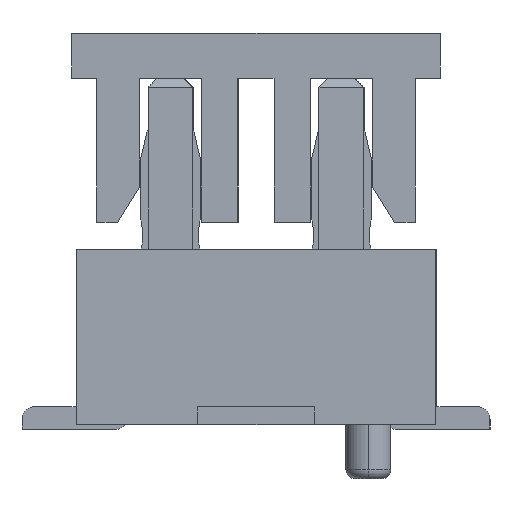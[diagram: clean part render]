
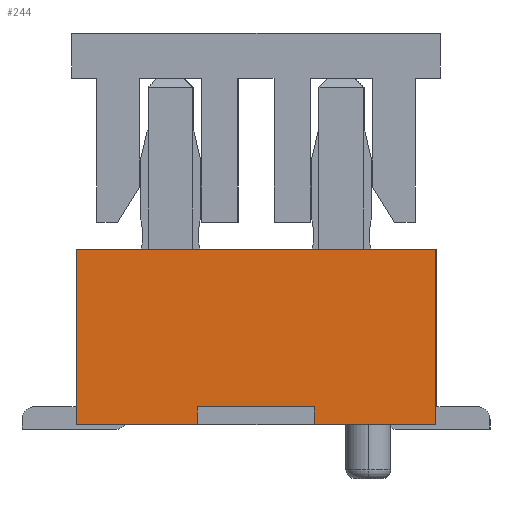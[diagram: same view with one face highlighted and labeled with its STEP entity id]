
A CAD part, left-side view. The second image highlights one B-rep face of the part: STEP entity #244.
In plain terms, the highlighted planar face has unit normal (-1, 0, 0).
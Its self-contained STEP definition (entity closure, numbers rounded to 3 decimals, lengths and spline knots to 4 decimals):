
#173=CARTESIAN_POINT('Axis2P3D Location',(-10.85,0.,0.)) ;
#178=CARTESIAN_POINT('Line Origine',(-10.85,0.65,0.1)) ;
#182=CARTESIAN_POINT('Vertex',(-10.85,0.65,0.)) ;
#184=CARTESIAN_POINT('Vertex',(-10.85,0.65,0.2)) ;
#187=CARTESIAN_POINT('Line Origine',(-10.85,0.,0.2)) ;
#191=CARTESIAN_POINT('Vertex',(-10.85,-0.65,0.2)) ;
#194=CARTESIAN_POINT('Line Origine',(-10.85,-0.65,0.1)) ;
#198=CARTESIAN_POINT('Vertex',(-10.85,-0.65,0.)) ;
#201=CARTESIAN_POINT('Line Origine',(-10.85,-1.325,0.)) ;
#205=CARTESIAN_POINT('Vertex',(-10.85,-2.,0.)) ;
#208=CARTESIAN_POINT('Line Origine',(-10.85,-2.,0.975)) ;
#212=CARTESIAN_POINT('Vertex',(-10.85,-2.,1.95)) ;
#215=CARTESIAN_POINT('Line Origine',(-10.85,0.,1.95)) ;
#219=CARTESIAN_POINT('Vertex',(-10.85,2.,1.95)) ;
#222=CARTESIAN_POINT('Line Origine',(-10.85,2.,0.975)) ;
#226=CARTESIAN_POINT('Vertex',(-10.85,2.,0.)) ;
#229=CARTESIAN_POINT('Line Origine',(-10.85,1.325,0.)) ;
#174=DIRECTION('Axis2P3D Direction',(1.,0.,0.)) ;
#175=DIRECTION('Axis2P3D XDirection',(0.,1.,0.)) ;
#179=DIRECTION('Vector Direction',(0.,0.,1.)) ;
#188=DIRECTION('Vector Direction',(0.,1.,0.)) ;
#195=DIRECTION('Vector Direction',(0.,0.,1.)) ;
#202=DIRECTION('Vector Direction',(0.,1.,0.)) ;
#209=DIRECTION('Vector Direction',(0.,0.,-1.)) ;
#216=DIRECTION('Vector Direction',(0.,1.,0.)) ;
#223=DIRECTION('Vector Direction',(0.,0.,-1.)) ;
#230=DIRECTION('Vector Direction',(0.,1.,0.)) ;
#176=AXIS2_PLACEMENT_3D('Plane Axis2P3D',#173,#174,#175) ;
#235=ORIENTED_EDGE('',*,*,#186,.T.) ;
#236=ORIENTED_EDGE('',*,*,#193,.F.) ;
#237=ORIENTED_EDGE('',*,*,#200,.F.) ;
#238=ORIENTED_EDGE('',*,*,#207,.F.) ;
#239=ORIENTED_EDGE('',*,*,#214,.F.) ;
#240=ORIENTED_EDGE('',*,*,#221,.F.) ;
#241=ORIENTED_EDGE('',*,*,#228,.F.) ;
#242=ORIENTED_EDGE('',*,*,#233,.F.) ;
#180=VECTOR('Line Direction',#179,1.) ;
#189=VECTOR('Line Direction',#188,1.) ;
#196=VECTOR('Line Direction',#195,1.) ;
#203=VECTOR('Line Direction',#202,1.) ;
#210=VECTOR('Line Direction',#209,1.) ;
#217=VECTOR('Line Direction',#216,1.) ;
#224=VECTOR('Line Direction',#223,1.) ;
#231=VECTOR('Line Direction',#230,1.) ;
#244=ADVANCED_FACE('\X2\96F64EF651E04F554F53\X0\',(#243),#177,.F.) ;
#186=EDGE_CURVE('',#183,#185,#181,.T.) ;
#193=EDGE_CURVE('',#192,#185,#190,.T.) ;
#200=EDGE_CURVE('',#199,#192,#197,.T.) ;
#207=EDGE_CURVE('',#206,#199,#204,.T.) ;
#214=EDGE_CURVE('',#213,#206,#211,.T.) ;
#221=EDGE_CURVE('',#220,#213,#218,.F.) ;
#228=EDGE_CURVE('',#227,#220,#225,.F.) ;
#233=EDGE_CURVE('',#183,#227,#232,.T.) ;
#234=EDGE_LOOP('',(#235,#236,#237,#238,#239,#240,#241,#242)) ;
#243=FACE_OUTER_BOUND('',#234,.T.) ;
#181=LINE('Line',#178,#180) ;
#190=LINE('Line',#187,#189) ;
#197=LINE('Line',#194,#196) ;
#204=LINE('Line',#201,#203) ;
#211=LINE('Line',#208,#210) ;
#218=LINE('Line',#215,#217) ;
#225=LINE('Line',#222,#224) ;
#232=LINE('Line',#229,#231) ;
#177=PLANE('Plane',#176) ;
#183=VERTEX_POINT('',#182) ;
#185=VERTEX_POINT('',#184) ;
#192=VERTEX_POINT('',#191) ;
#199=VERTEX_POINT('',#198) ;
#206=VERTEX_POINT('',#205) ;
#213=VERTEX_POINT('',#212) ;
#220=VERTEX_POINT('',#219) ;
#227=VERTEX_POINT('',#226) ;
